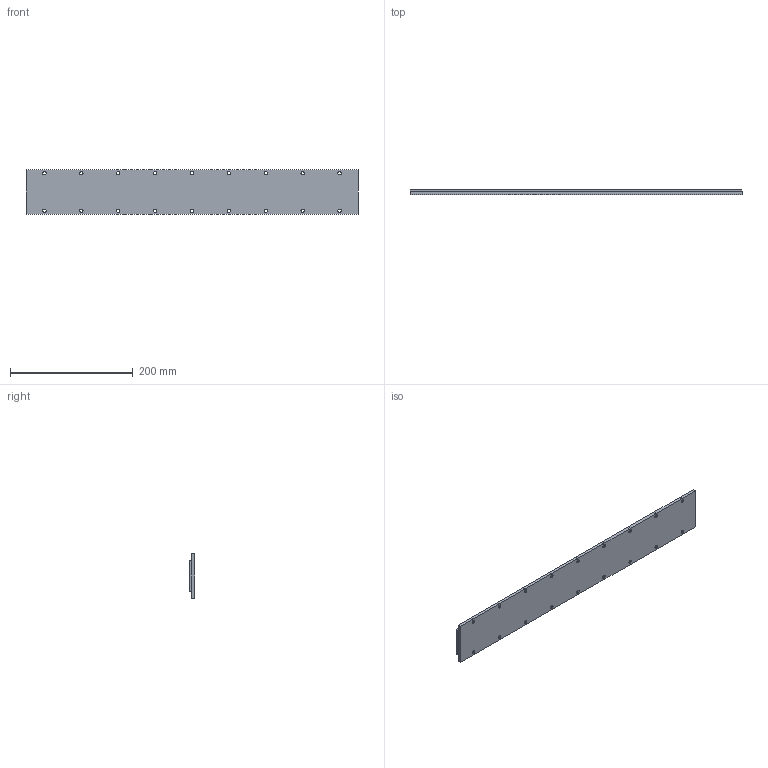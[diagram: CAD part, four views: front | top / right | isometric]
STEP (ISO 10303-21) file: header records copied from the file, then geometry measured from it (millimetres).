
FILE_DESCRIPTION (( 'STEP AP203' ), '1' );
FILE_NAME ('CM540.STEP', '2025-12-28T07:55:25', ( '' ), ( '' ), 'SwSTEP 2.0', 'SolidWorks 2024', '' );
FILE_SCHEMA (( 'CONFIG_CONTROL_DESIGN' ));
Length unit declared in the file: millimetre
Products named in the file (1): CM540
Bounding box: 540 x 9.2 x 72 mm (x, y, z)
Volume: 303751.5 mm3; surface area: 98515.1 mm2
Topology: 1 solids, 1 shells, 143 faces, 344 edges, 224 vertices
Faces by surface type: cylinder 76, plane 55, bspline 12
Entity records: 4575 total; most frequent: CARTESIAN_POINT 1020, DIRECTION 736, ORIENTED_EDGE 688, EDGE_CURVE 344, AXIS2_PLACEMENT_3D 284, VERTEX_POINT 224, EDGE_LOOP 200, LINE 168
